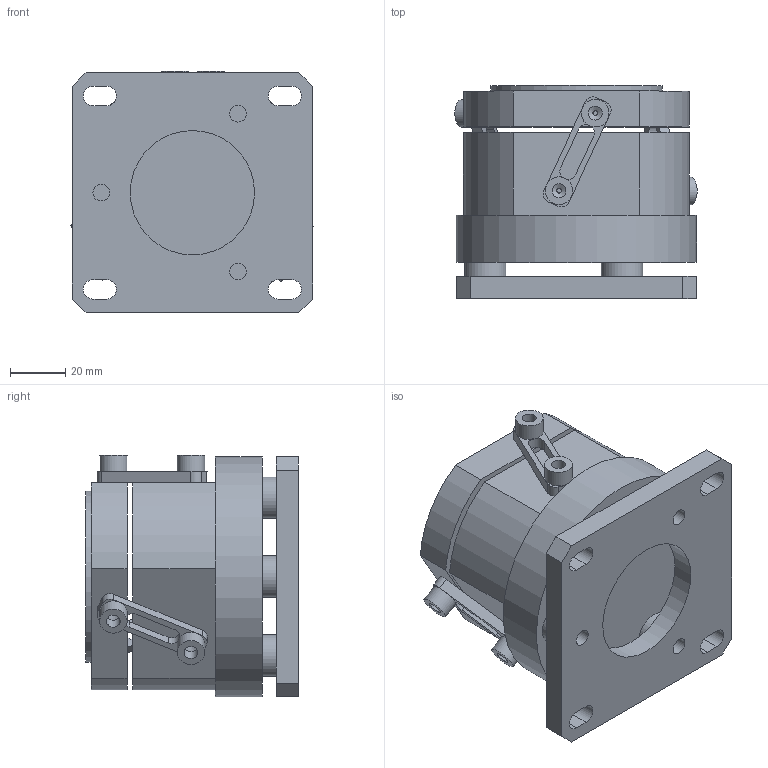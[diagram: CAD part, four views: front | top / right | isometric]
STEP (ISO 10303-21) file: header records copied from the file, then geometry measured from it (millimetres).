
FILE_DESCRIPTION(/* description */ (''),/* implementation_level */ '2;1');
FILE_NAME(/* name */ 'JMA-80.stp',/* time_stamp */ '2022-04-19T11:16:40+08:00',/* author */ (''),/* organization */ (''),/* preprocessor_version */ 'ST-DEVELOPER v18.102',/* originating_system */ 'SIEMENS PLM Software NX 2019',/* authorisation */ '');
FILE_SCHEMA (('AUTOMOTIVE_DESIGN { 1 0 10303 214 3 1 1 1 }'));
Length unit declared in the file: millimetre
Products named in the file (1): JMA-80_stp
Bounding box: 87.74 x 77 x 87.5 mm (x, y, z)
Volume: 359726.6 mm3; surface area: 76922.3 mm2
Topology: 17 solids, 17 shells, 140 faces, 318 edges, 212 vertices
Faces by surface type: plane 74, cylinder 60, cone 6
Full cylindrical faces by diameter (mm): 5 x6, 5.2 x1, 5.5 x6, 6 x3, 10 x6, 15 x3, 45 x1, 62 x1, 87 x1
Entity records: 3950 total; most frequent: DIRECTION 682, CARTESIAN_POINT 637, ORIENTED_EDGE 556, EDGE_CURVE 278, AXIS2_PLACEMENT_3D 267, EDGE_LOOP 222, VERTEX_POINT 206, LINE 148
